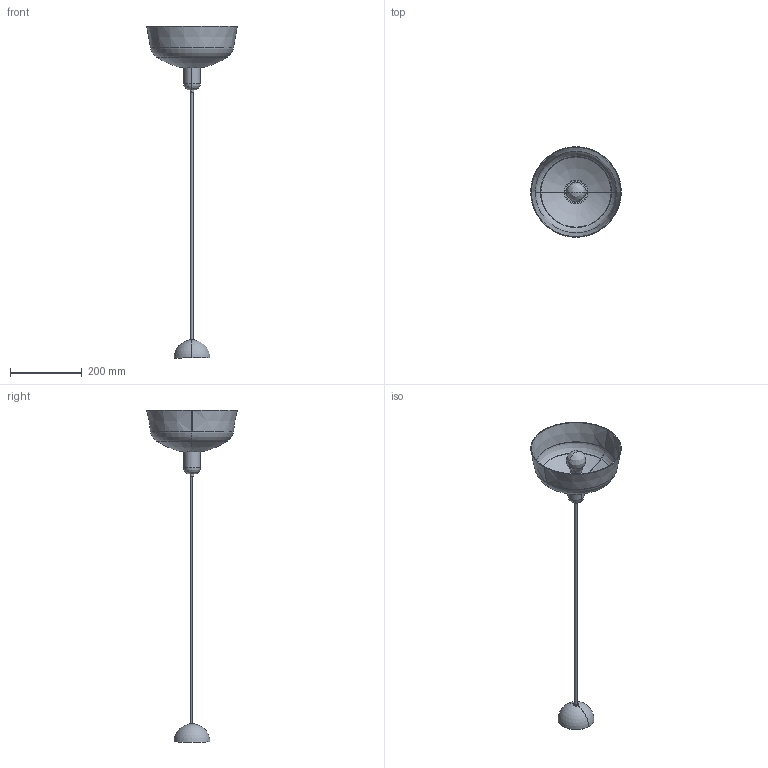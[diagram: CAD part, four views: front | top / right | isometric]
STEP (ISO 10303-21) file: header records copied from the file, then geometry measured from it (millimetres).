
FILE_DESCRIPTION(/* description */ (''),/* implementation_level */ '2;1');
FILE_NAME(/* name */ 'tatawin_pendantlamp_m_1.step',/* time_stamp */ '2024-10-22T13:11:42+02:00',/* author */ ('RenataManzini'),/* organization */ (''),/* preprocessor_version */ 'ST-DEVELOPER v20',/* originating_system */ 'AutoCAD Mechanical',/* authorisation */ '');
FILE_SCHEMA (('AUTOMOTIVE_DESIGN { 1 0 10303 214 3 1 1 }'));
Length unit declared in the file: millimetre
Products named in the file (2): Product; pieza_TATAWIN_LAMP_LINEALrfa - soporte-639707-_3D_
Assembly tree (1 placements, depth 2):
  Product
    pieza_TATAWIN_LAMP_LINEALrfa - soporte-639707-_3D_
Bounding box: 251.84 x 251.84 x 922.36 mm (x, y, z)
Volume: 474966.3 mm3; surface area: 491093.1 mm2
Topology: 9 solids, 9 shells, 156 faces, 340 edges, 194 vertices
Faces by surface type: plane 62, cylinder 48, bspline 20, cone 12, torus 10, sphere 4
Entity records: 6445 total; most frequent: CARTESIAN_POINT 3087, DIRECTION 724, ORIENTED_EDGE 664, EDGE_CURVE 332, AXIS2_PLACEMENT_3D 289, VERTEX_POINT 188, EDGE_LOOP 162, FACE_OUTER_BOUND 156
